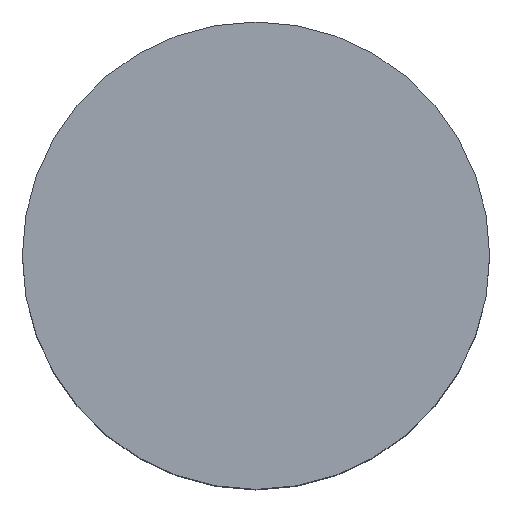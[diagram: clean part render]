
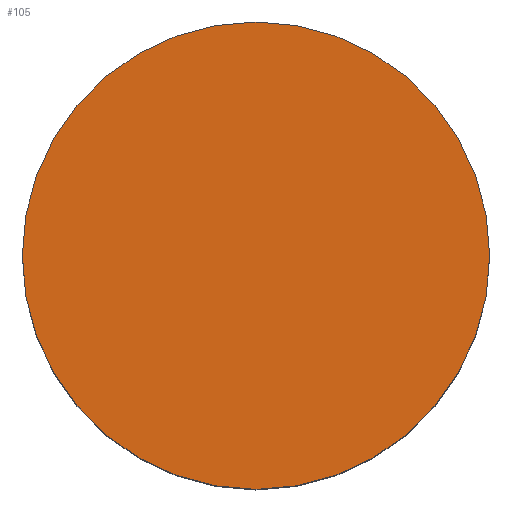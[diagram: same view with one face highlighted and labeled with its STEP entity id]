
A CAD part, top view. The second image highlights one B-rep face of the part: STEP entity #105.
In plain terms, the highlighted planar face has unit normal (0, 0, 1).
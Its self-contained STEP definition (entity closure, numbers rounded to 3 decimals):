
#21 = EDGE_CURVE('',#22,#22,#24,.T.);
#22 = VERTEX_POINT('',#23);
#23 = CARTESIAN_POINT('',(8.,4.,15.55));
#24 = SURFACE_CURVE('',#25,(#30,#42),.PCURVE_S1.);
#25 = CIRCLE('',#26,4.);
#26 = AXIS2_PLACEMENT_3D('',#27,#28,#29);
#27 = CARTESIAN_POINT('',(4.,4.,15.55));
#28 = DIRECTION('',(0.,0.,1.));
#29 = DIRECTION('',(1.,0.,-0.));
#30 = PCURVE('',#31,#36);
#31 = CYLINDRICAL_SURFACE('',#32,4.);
#32 = AXIS2_PLACEMENT_3D('',#33,#34,#35);
#33 = CARTESIAN_POINT('',(4.,4.,14.15));
#34 = DIRECTION('',(0.,0.,1.));
#35 = DIRECTION('',(1.,0.,-0.));
#36 = DEFINITIONAL_REPRESENTATION('',(#37),#41);
#37 = LINE('',#38,#39);
#38 = CARTESIAN_POINT('',(0.,1.4));
#39 = VECTOR('',#40,1.);
#40 = DIRECTION('',(1.,0.));
#41 = ( GEOMETRIC_REPRESENTATION_CONTEXT(2) 
PARAMETRIC_REPRESENTATION_CONTEXT() REPRESENTATION_CONTEXT('2D SPACE',''
  ) );
#42 = PCURVE('',#43,#48);
#43 = PLANE('',#44);
#44 = AXIS2_PLACEMENT_3D('',#45,#46,#47);
#45 = CARTESIAN_POINT('',(4.,4.,15.55));
#46 = DIRECTION('',(0.,0.,1.));
#47 = DIRECTION('',(1.,0.,-0.));
#48 = DEFINITIONAL_REPRESENTATION('',(#49),#53);
#49 = CIRCLE('',#50,4.);
#50 = AXIS2_PLACEMENT_2D('',#51,#52);
#51 = CARTESIAN_POINT('',(0.,0.));
#52 = DIRECTION('',(1.,0.));
#53 = ( GEOMETRIC_REPRESENTATION_CONTEXT(2) 
PARAMETRIC_REPRESENTATION_CONTEXT() REPRESENTATION_CONTEXT('2D SPACE',''
  ) );
#105 = ADVANCED_FACE('',(#106),#43,.T.);
#106 = FACE_BOUND('',#107,.T.);
#107 = EDGE_LOOP('',(#108));
#108 = ORIENTED_EDGE('',*,*,#21,.T.);
